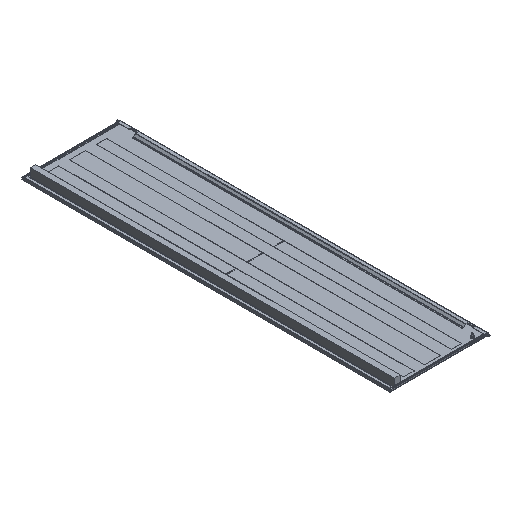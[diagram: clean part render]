
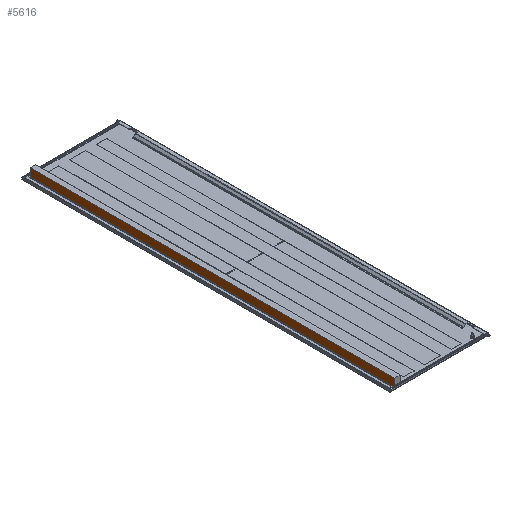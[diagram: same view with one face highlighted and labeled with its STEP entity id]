
A CAD part, isometric view. The second image highlights one B-rep face of the part: STEP entity #5616.
In plain terms, the highlighted planar face has unit normal (-1, 0, 0).
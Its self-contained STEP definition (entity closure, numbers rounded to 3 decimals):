
#317 = EDGE_LOOP ( 'NONE', ( #7169, #7170, #7168, #7171 ) ) ;
#794 = CARTESIAN_POINT ( 'NONE',  ( -224.6, 956.75, -12. ) ) ;
#818 = CARTESIAN_POINT ( 'NONE',  ( -224.6, -956.75, -12. ) ) ;
#1145 = LINE ( 'NONE', #1146, #6005 ) ;
#1146 = CARTESIAN_POINT ( 'NONE',  ( -224.6, -956.75, 29.5 ) ) ;
#1147 = DIRECTION ( 'NONE',  ( 0., -1., 0. ) ) ;
#1148 = LINE ( 'NONE', #1149, #6004 ) ;
#1149 = CARTESIAN_POINT ( 'NONE',  ( -224.6, -956.75, 29.5 ) ) ;
#1150 = DIRECTION ( 'NONE',  ( 0., 0., -1. ) ) ;
#1154 = LINE ( 'NONE', #1155, #6002 ) ;
#1155 = CARTESIAN_POINT ( 'NONE',  ( -224.6, 956.75, 29.5 ) ) ;
#1156 = DIRECTION ( 'NONE',  ( 0., 0., -1. ) ) ;
#2024 = LINE ( 'NONE', #2025, #7349 ) ;
#2025 = CARTESIAN_POINT ( 'NONE',  ( -224.6, -956.75, -12. ) ) ;
#2026 = DIRECTION ( 'NONE',  ( 0., -1., 0. ) ) ;
#2733 = PLANE ( 'NONE',  #2978 ) ;
#2734 = CARTESIAN_POINT ( 'NONE',  ( -224.6, -956.75, 29.5 ) ) ;
#2735 = DIRECTION ( 'NONE',  ( 1., 0., 0. ) ) ;
#2736 = DIRECTION ( 'NONE',  ( 0., 0., -1. ) ) ;
#2974 = FACE_OUTER_BOUND ( 'NONE', #317, .T. ) ;
#2978 = AXIS2_PLACEMENT_3D ( 'NONE', #2734, #2735, #2736 ) ;
#4214 = CARTESIAN_POINT ( 'NONE',  ( -224.6, 956.75, 29.5 ) ) ;
#4215 = CARTESIAN_POINT ( 'NONE',  ( -224.6, -956.75, 29.5 ) ) ;
#4681 = VERTEX_POINT ( 'NONE', #794 ) ;
#4705 = VERTEX_POINT ( 'NONE', #818 ) ;
#5094 = EDGE_CURVE ( 'NONE', #6085, #6086, #1145, .T. ) ;
#5095 = EDGE_CURVE ( 'NONE', #6086, #4705, #1148, .T. ) ;
#5097 = EDGE_CURVE ( 'NONE', #6085, #4681, #1154, .T. ) ;
#5387 = EDGE_CURVE ( 'NONE', #4681, #4705, #2024, .T. ) ;
#5616 = ADVANCED_FACE ( 'NONE', ( #2974 ), #2733, .F. ) ;
#6002 = VECTOR ( 'NONE', #1156, 1000. ) ;
#6004 = VECTOR ( 'NONE', #1150, 1000. ) ;
#6005 = VECTOR ( 'NONE', #1147, 1000. ) ;
#6085 = VERTEX_POINT ( 'NONE', #4214 ) ;
#6086 = VERTEX_POINT ( 'NONE', #4215 ) ;
#7168 = ORIENTED_EDGE ( 'NONE', *, *, #5094, .F. ) ;
#7169 = ORIENTED_EDGE ( 'NONE', *, *, #5387, .T. ) ;
#7170 = ORIENTED_EDGE ( 'NONE', *, *, #5095, .F. ) ;
#7171 = ORIENTED_EDGE ( 'NONE', *, *, #5097, .T. ) ;
#7349 = VECTOR ( 'NONE', #2026, 1000. ) ;
